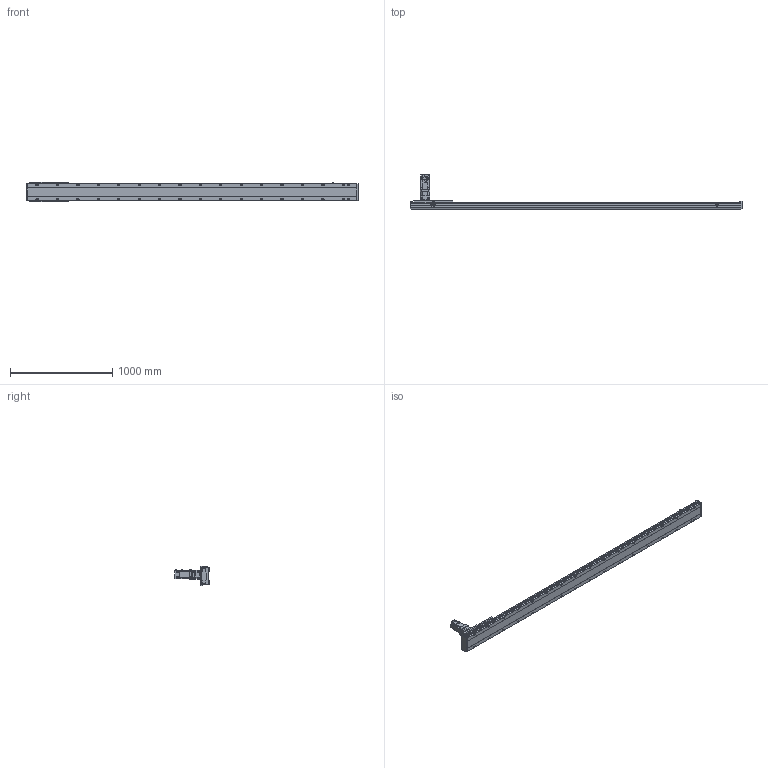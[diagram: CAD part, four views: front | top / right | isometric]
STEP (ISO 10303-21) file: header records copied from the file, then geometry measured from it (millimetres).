
FILE_DESCRIPTION(/* description */ ('STEP AP203'),/* implementation_level */ '2;1');
FILE_NAME(/* name */ 'SHS17A-L13-S2800-BC-T75-C1-N(0)',/* time_stamp */ '2023-03-27T08:58:22+02:00',/* author */ ('License CC BY-ND 4.0'),/* organization */ ('CADENAS'),/* preprocessor_version */ 'ST-DEVELOPER v19.3',/* originating_system */ 'PARTsolutions',/* authorisation */ ' ');
FILE_SCHEMA (('CONFIG_CONTROL_DESIGN'));
Length unit declared in the file: millimetre
Products named in the file (7): SHS17A-L13-S2800-BC-T75-C1-N(0); PSC140-sensor; SHS17A-S2800(0)_body2; T75-p1; SHS17A-S2800_body3; SHS17A-S2800-C1(0)_slider; SHS17A-S2800-C1(0)_body
Assembly tree (13 placements, depth 2):
  SHS17A-L13-S2800-BC-T75-C1-N(0)
    PSC140-sensor  x3
    SHS17A-S2800(0)_body2  x6
    T75-p1
    SHS17A-S2800_body3
    SHS17A-S2800-C1(0)_slider
    SHS17A-S2800-C1(0)_body
Bounding box: 3254 x 333.8 x 193.4 mm (x, y, z)
Volume: 22986916.6 mm3; surface area: 2663557.6 mm2
Topology: 13 solids, 13 shells, 2200 faces, 5596 edges, 3645 vertices
Faces by surface type: plane 1390, cylinder 719, cone 88, torus 3
Full cylindrical faces by diameter (mm): 2.8 x3, 4.134 x24, 4.5 x2, 4.6 x3, 4.917 x15, 5.5 x48, 6 x7, 6.5 x24, 6.647 x42, 6.8 x9, 8 x3, 8.5 x34, 10 x28, 11 x4, 14 x34, 22 x1, 24 x1, 24.2 x1, 28 x1, 28.2 x1, 28.8 x1, 29.8 x1, 48.542 x1, 68 x1, 70 x1, 78 x1, 80 x2
Entity records: 42766 total; most frequent: CARTESIAN_POINT 8398, DIRECTION 6973, ORIENTED_EDGE 6724, EDGE_CURVE 3362, AXIS2_PLACEMENT_3D 2468, VERTEX_POINT 2365, LINE 2037, VECTOR 2037
